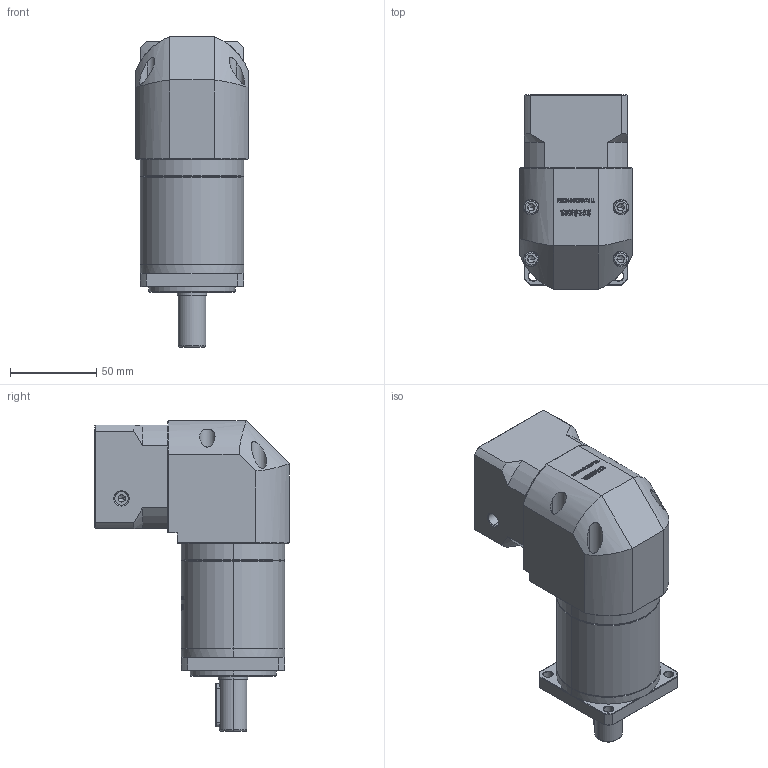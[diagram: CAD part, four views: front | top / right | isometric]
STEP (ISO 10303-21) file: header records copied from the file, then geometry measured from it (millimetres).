
FILE_DESCRIPTION (( 'STEP AP214' ), '1' );
FILE_NAME ('ZFR60-D16-L2-6.35-38.1-47.14x47.14-M4.STEP', '2022-04-20T08:05:32', ( '' ), ( 'Microsoft' ), 'SwSTEP 2.0', 'SolidWorks 2016', '' );
FILE_SCHEMA (( 'AUTOMOTIVE_DESIGN' ));
Length unit declared in the file: millimetre
Products named in the file (1): ZFR60-D16-L2-6.35-38.1-47.14x47.14-M4
Bounding box: 65 x 112.7 x 180 mm (x, y, z)
Volume: 593031.8 mm3; surface area: 83524.7 mm2
Topology: 5 solids, 6 shells, 2688 faces, 7301 edges, 4751 vertices
Faces by surface type: plane 1398, bspline 591, cylinder 396, cone 291, torus 12
Entity records: 147083 total; most frequent: CARTESIAN_POINT 55402, ORIENTED_EDGE 14558, DIRECTION 10429, EDGE_CURVE 7279, VERTEX_POINT 4751, LINE 4383, VECTOR 4383, AXIS2_PLACEMENT_3D 3023
